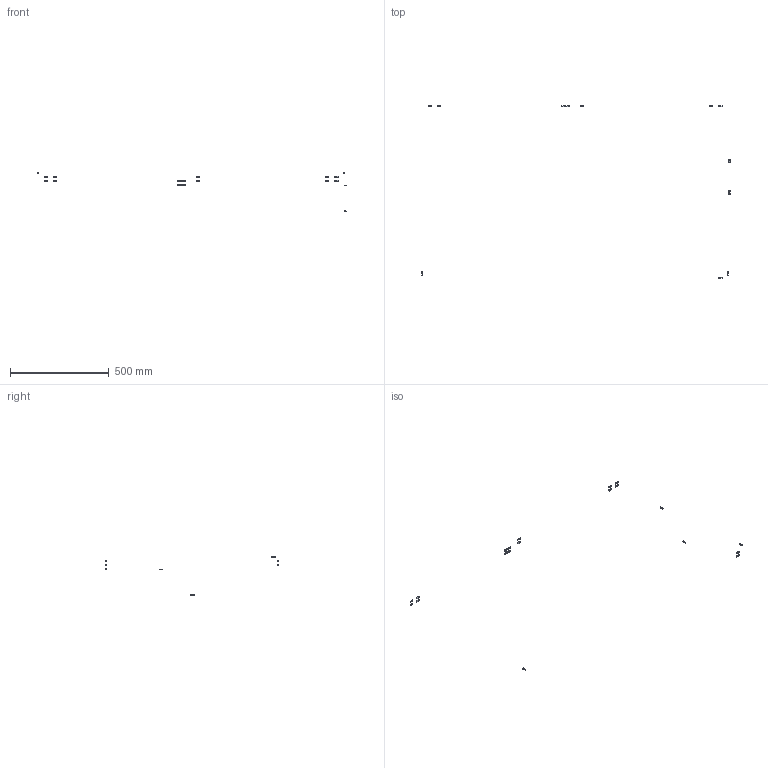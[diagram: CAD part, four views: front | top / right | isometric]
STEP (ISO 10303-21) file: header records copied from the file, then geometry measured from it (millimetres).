
FILE_DESCRIPTION(/* description */ (''),/* implementation_level */ '2;1');
FILE_NAME(/* name */ 'Y-0A5A~1',/* time_stamp */ '2014-02-14T19:40:43+01:00',/* author */ (''),/* organization */ (''),/* preprocessor_version */ 'ST-DEVELOPER v14',/* originating_system */ '',/* authorisation */ '');
FILE_SCHEMA (('AUTOMOTIVE_DESIGN'));
Length unit declared in the file: millimetre
Products named in the file (2): Document; nut tslot, post, M5
Assembly tree (14 placements, depth 2):
  Document
    nut tslot, post, M5  x14
Bounding box: 1559.35 x 870.4 x 199.35 mm (x, y, z)
Volume: 6300.2 mm3; surface area: 8390.2 mm2
Topology: 20 solids, 20 shells, 260 faces, 720 edges, 480 vertices
Faces by surface type: plane 220, bspline 40
Entity records: 6817 total; most frequent: CARTESIAN_POINT 3209, B_SPLINE_CURVE_WITH_KNOTS 700, ORIENTED_EDGE 504, PCURVE 504, DEFINITIONAL_REPRESENTATION 504, SURFACE_CURVE 252, EDGE_CURVE 252, VERTEX_POINT 168
